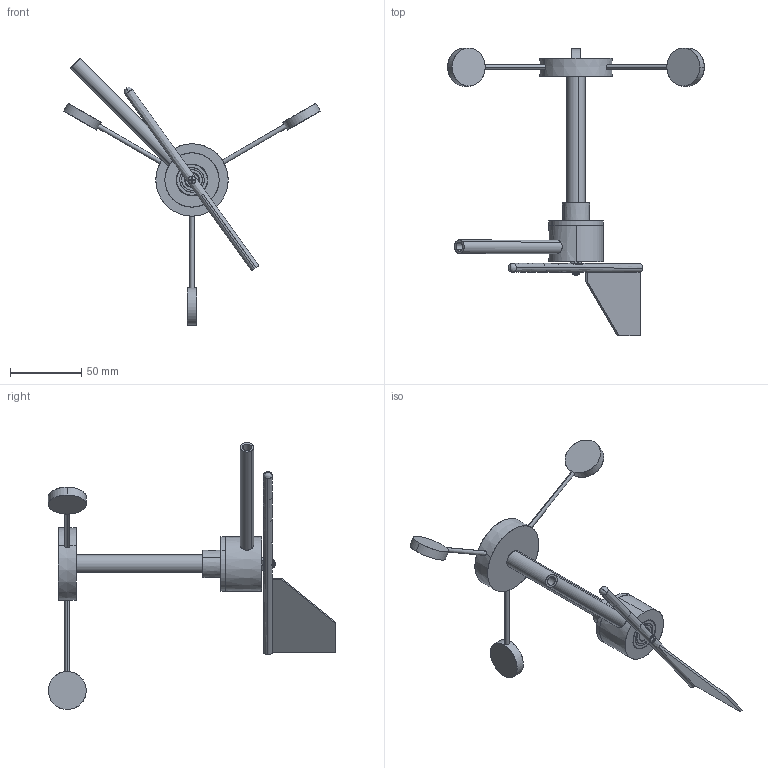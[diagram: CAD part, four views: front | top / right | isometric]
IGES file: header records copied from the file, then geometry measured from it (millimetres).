
Start section: SolidWorks IGES file using analytic representation for surfaces
Global section: file name: C:\Users\Bud\Documents\GitHub\telemetry\Hardware\Masthead hardware\IGES\masthead assembly.IGS; native system: SolidWorks 2011; preprocessor: SolidWorks 2011; author: Bud; date: 131225.124201; units: inch
Bounding box: 180.25 x 201.93 x 187.55 mm (x, y, z)
Surface area: 53091.1 mm2 (no closed solid volume)
Topology: 0 solids, 0 shells, 614 faces, 12171 edges, 12130 vertices
Faces by surface type: revolution 454, bspline 160
